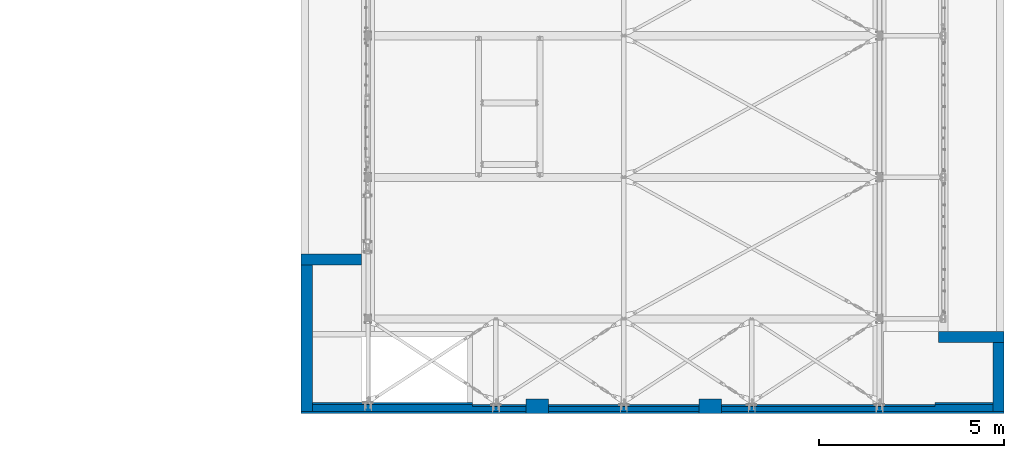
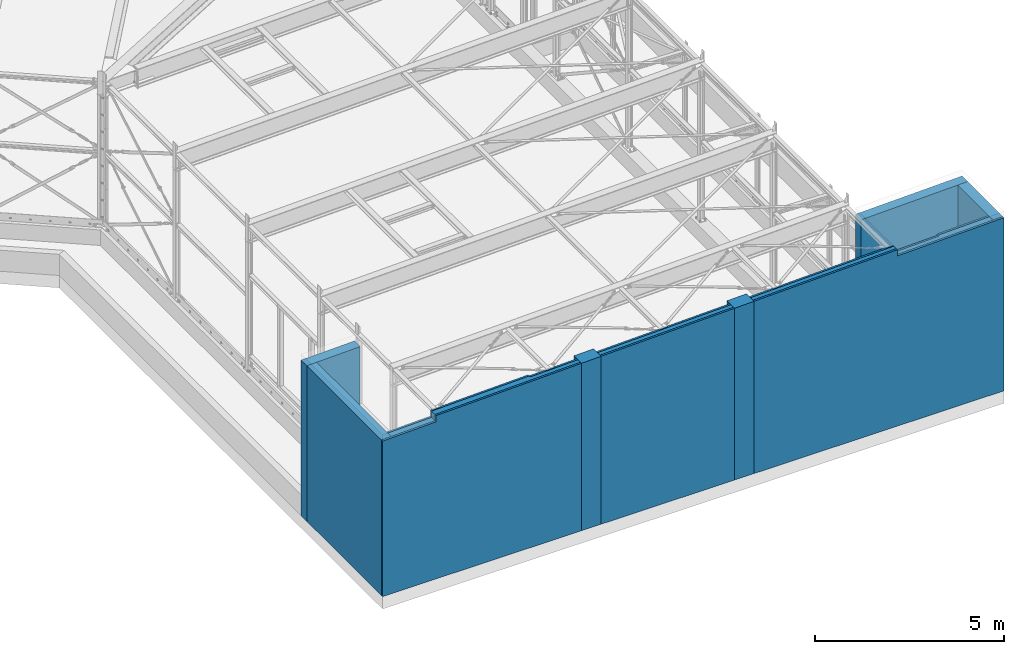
# One storey, part 77 of 476: 17 walls, 31 openings.
"""IFC2X3 building model written with IfcOpenShell, lengths in millimetres."""

from ifc_helpers import new_model, entity, si_unit, converted_unit, frame, origin, origin_with_axes, place, context, project, spatial, polyline, outline, extrude, material, layer, layer_set, element, save


model = new_model("IFC2X3")

# Units and contexts
model_context = context("Model", 3, precision=1e-09, world=origin_with_axes())
ifc_project = project(units=[si_unit("LENGTHUNIT", "METRE", prefix="MILLI"), si_unit("AREAUNIT", "SQUARE_METRE"), si_unit("VOLUMEUNIT", "CUBIC_METRE"), converted_unit("PLANEANGLEUNIT", "DEGREE", entity("IfcPlaneAngleMeasure", 0.01745329), si_unit("PLANEANGLEUNIT", "RADIAN"), dimensions=[0, 0, 0, 0, 0, 0, 0])], contexts=[model_context])

# Site, building, storey
site_placement = place(None, origin_with_axes())
site = spatial("IfcSite", under=ifc_project, at=site_placement, Name="mKR Teilneubau & Sanierung BA1 - Ostfildern", CompositionType="ELEMENT")
building_placement = place(site_placement, origin_with_axes())
building = spatial("IfcBuilding", under=site, at=building_placement, Name="Struktur 1", CompositionType="ELEMENT")
storey_placement = place(building_placement, origin_with_axes())
storey = spatial("IfcBuildingStorey", under=building, at=storey_placement, Name="Default Storey", CompositionType="ELEMENT", Elevation=0.0)

# Wall, openings
ifc_material = material(Name="C25/30")
ifc_layer_1 = layer(ifc_material, 60.0)
ifc_layer_set_1 = layer_set([ifc_layer_1], Name="C25/30")
wall_1_placement = place(None, frame((8820.608764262, -23480.316467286, 3000.0), z_axis=(0.0, -1.0, 0.0), x_axis=(1.0, 0.0, 0.0)))
wall_1 = element("IfcWall", 1, at=wall_1_placement, inside=storey, material=ifc_layer_set_1, Name="-", ObjectType="-", context=model_context, shape_type="SweptSolid", body=[
    extrude(outline(polyline([(-2160.000000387, -3000.0), (2160.000000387, -3000.0), (2160.000000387, 3000.0), (-2160.000000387, 3000.0), (-2160.000000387, -3000.0)])), origin_with_axes(), (0.0, 0.0, 1.0), 60.0),
])
opening_1_placement = place(wall_1_placement, frame((0.0, 0.0, -0.1), z_axis=(0.0, 0.0, 1.0), x_axis=(0.999548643, 0.0300418, 0.0)))
element("IfcOpeningElement", 2, at=opening_1_placement, cuts=wall_1, ObjectType="Opening", context=model_context, shape_type="SweptSolid", body=[
    extrude(outline(polyline([(-3044.791733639, 2092.899814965), (-767.469956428, 2092.898814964), (-711.393342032, 3958.709274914), (-2912.029489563, 3958.709274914), (-3044.791733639, 2092.899814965)])), origin(), (0.0, 0.0, 1.0), 60.2),
])
opening_2_placement = place(wall_1_placement, frame((0.0, 0.0, -0.1), z_axis=(0.0, 0.0, 1.0), x_axis=(0.999548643, 0.0300418, 0.0)))
element("IfcOpeningElement", 3, at=opening_2_placement, cuts=wall_1, ObjectType="Opening", context=model_context, shape_type="SweptSolid", body=[
    extrude(outline(polyline([(-1398.165405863, 2292.899814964), (3878.19009054, 2292.899814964), (3878.19009054, 5635.769206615), (-1398.165405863, 5635.769206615), (-1398.165405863, 2292.899814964)])), origin(), (0.0, 0.0, 1.0), 60.2),
])
opening_3_placement = place(wall_1_placement, frame((0.0, 0.0, -0.1), z_axis=(0.0, 0.0, 1.0), x_axis=(0.999548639, 0.030041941, 0.0)))
element("IfcOpeningElement", 4, at=opening_3_placement, cuts=wall_1, ObjectType="Opening", context=model_context, shape_type="SweptSolid", body=[
    extrude(outline(polyline([(-713.846760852, 2042.908199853), (-463.844760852, 2042.908199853), (-463.844760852, 2292.910199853), (-713.846760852, 2292.910199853), (-713.846760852, 2042.908199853)])), origin(), (0.0, 0.0, 1.0), 20.1),
])

wall_2_placement = place(None, frame((11705.608733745, -23530.31740625, 3000.0), z_axis=(0.0, -1.0, 0.0), x_axis=(1.0, 0.0, 0.0)))
wall_2 = element("IfcWall", 5, at=wall_2_placement, inside=storey, material=ifc_layer_set_1, Name="-", ObjectType="-", context=model_context, shape_type="SweptSolid", body=[
    extrude(outline(polyline([(-724.999969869, -3000.0), (724.999969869, -3000.0), (724.999969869, 3000.0), (-724.999969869, 3000.0), (-724.999969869, -3000.0)])), origin_with_axes(), (0.0, 0.0, 1.0), 60.0),
])
opening_4_placement = place(wall_2_placement, frame((0.0, 0.0, -0.1), z_axis=(0.0, 0.0, 1.0), x_axis=(0.999548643, 0.0300418, 0.0)))
element("IfcOpeningElement", 6, at=opening_4_placement, cuts=wall_2, ObjectType="Opening", context=model_context, shape_type="SweptSolid", body=[
    extrude(outline(polyline([(-1485.061800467, 2379.569405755), (2681.23173557, 2379.569405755), (2681.23173557, 5163.332265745), (-1485.061800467, 5163.332265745), (-1485.061800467, 2379.569405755)])), origin(), (0.0, 0.0, 1.0), 60.2),
])
opening_5_placement = place(wall_2_placement, frame((0.0, 0.0, -0.1), z_axis=(0.0, 0.0, 1.0), x_axis=(0.999548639, 0.030041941, 0.0)))
element("IfcOpeningElement", 7, at=opening_5_placement, cuts=wall_2, ObjectType="Opening", context=model_context, shape_type="SweptSolid", body=[
    extrude(outline(polyline([(-145.984627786, 2129.573973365), (104.017372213, 2129.573973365), (104.017372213, 2379.575973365), (-145.984627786, 2379.575973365), (-145.984627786, 2129.573973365)])), origin(), (0.0, 0.0, 1.0), 20.1),
])

wall_3_placement = place(None, frame((15065.608764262, -23530.31740625, 3000.0), z_axis=(0.0, -1.0, 0.0), x_axis=(1.0, 0.0, 0.0)))
wall_3 = element("IfcWall", 8, at=wall_3_placement, inside=storey, material=ifc_layer_set_1, Name="-", ObjectType="-", context=model_context, shape_type="SweptSolid", body=[
    extrude(outline(polyline([(-2035.000000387, -3000.0), (2035.000000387, -3000.0), (2035.000000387, 3000.0), (-2035.000000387, 3000.0), (-2035.000000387, -3000.0)])), origin_with_axes(), (0.0, 0.0, 1.0), 60.0),
])
opening_6_placement = place(wall_3_placement, frame((0.0, 0.0, -0.1), z_axis=(0.0, 0.0, 1.0), x_axis=(0.999548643, 0.0300418, 0.0)))
element("IfcOpeningElement", 9, at=opening_6_placement, cuts=wall_3, ObjectType="Opening", context=model_context, shape_type="SweptSolid", body=[
    extrude(outline(polyline([(-4584.426934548, 2480.509853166), (3229.92146185, 2480.509853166), (3229.92146185, 4980.441591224), (-4584.426934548, 4980.441591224), (-4584.426934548, 2480.509853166)])), origin(), (0.0, 0.0, 1.0), 60.2),
])
opening_7_placement = place(wall_3_placement, frame((0.0, 0.0, -0.1), z_axis=(0.0, 0.0, 1.0), x_axis=(0.999548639, 0.030041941, 0.0)))
element("IfcOpeningElement", 10, at=opening_7_placement, cuts=wall_3, ObjectType="Opening", context=model_context, shape_type="SweptSolid", body=[
    extrude(outline(polyline([(-52.910993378, 2230.5167775), (197.091006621, 2230.5167775), (197.091006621, 2480.5187775), (-52.910993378, 2480.5187775), (-52.910993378, 2230.5167775)])), origin(), (0.0, 0.0, 1.0), 20.1),
])

wall_4_placement = place(None, frame((20580.609233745, -23530.31740625, 3000.0), z_axis=(0.0, -1.0, 0.0), x_axis=(1.0, 0.0, 0.0)))
wall_4 = element("IfcWall", 11, at=wall_4_placement, inside=storey, material=ifc_layer_set_1, Name="-", ObjectType="-", context=model_context, shape_type="SweptSolid", body=[
    extrude(outline(polyline([(-2880.000530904, -3000.0), (2880.000530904, -3000.0), (2880.000530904, 3000.0), (-2880.000530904, 3000.0), (-2880.000530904, -3000.0)])), origin_with_axes(), (0.0, 0.0, 1.0), 60.0),
])
opening_8_placement = place(wall_4_placement, frame((0.0, 0.0, -0.1), z_axis=(0.0, 0.0, 1.0), x_axis=(0.999548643, 0.0300418, 0.0)))
element("IfcOpeningElement", 12, at=opening_8_placement, cuts=wall_4, ObjectType="Opening", context=model_context, shape_type="SweptSolid", body=[
    extrude(outline(polyline([(1612.722225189, 4060.869991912), (1564.192440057, 2446.190391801), (3549.811276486, 2446.190391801), (3549.811276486, 3188.542503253), (1612.722225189, 4060.869991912)])), origin(), (0.0, 0.0, 1.0), 60.2),
])
opening_9_placement = place(wall_4_placement, frame((0.0, 0.0, -0.1), z_axis=(0.0, 0.0, 1.0), x_axis=(0.999548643, 0.0300418, 0.0)))
element("IfcOpeningElement", 13, at=opening_9_placement, cuts=wall_4, ObjectType="Opening", context=model_context, shape_type="SweptSolid", body=[
    extrude(outline(polyline([(-3176.949745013, 2646.191391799), (1865.513369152, 2646.191391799), (1865.513369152, 4432.340597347), (-3176.949745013, 4432.340597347), (-3176.949745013, 2646.191391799)])), origin(), (0.0, 0.0, 1.0), 60.2),
])
opening_10_placement = place(wall_4_placement, frame((0.0, 0.0, -0.1), z_axis=(0.0, 0.0, 1.0), x_axis=(0.999548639, 0.030041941, 0.0)))
element("IfcOpeningElement", 14, at=opening_10_placement, cuts=wall_4, ObjectType="Opening", context=model_context, shape_type="SweptSolid", body=[
    extrude(outline(polyline([(-2113.865529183, 2396.200446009), (-1863.863529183, 2396.200446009), (-1863.863529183, 2646.202446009), (-2113.865529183, 2646.202446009), (-2113.865529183, 2396.200446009)])), origin(), (0.0, 0.0, 1.0), 20.1),
])
opening_11_placement = place(wall_4_placement, frame((0.0, 0.0, -0.1), z_axis=(0.0, 0.0, 1.0), x_axis=(0.999548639, 0.030041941, 0.0)))
element("IfcOpeningElement", 15, at=opening_11_placement, cuts=wall_4, ObjectType="Opening", context=model_context, shape_type="SweptSolid", body=[
    extrude(outline(polyline([(1337.692369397, 2396.200446), (1587.694369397, 2396.200446), (1587.694369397, 2646.202446), (1337.692369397, 2646.202446), (1337.692369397, 2396.200446)])), origin(), (0.0, 0.0, 1.0), 20.1),
])

# Wall, opening
wall_5_placement = place(None, frame((24243.108733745, -23480.316467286, 3000.0), z_axis=(0.0, -1.0, 0.0), x_axis=(1.0, 0.0, 0.0)))
wall_5 = element("IfcWall", 16, at=wall_5_placement, inside=storey, material=ifc_layer_set_1, Name="-", ObjectType="-", context=model_context, shape_type="SweptSolid", body=[
    extrude(outline(polyline([(-782.499969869, -3000.0), (782.499969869, -3000.0), (782.499969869, 3000.0), (-782.499969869, 3000.0), (-782.499969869, -3000.0)])), origin_with_axes(), (0.0, 0.0, 1.0), 60.0),
])
opening_12_placement = place(wall_5_placement, frame((0.0, 0.0, -0.1), z_axis=(0.0, 0.0, 1.0), x_axis=(0.999548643, 0.0300418, 0.0)))
element("IfcOpeningElement", 17, at=opening_12_placement, cuts=wall_5, ObjectType="Opening", context=model_context, shape_type="SweptSolid", body=[
    extrude(outline(polyline([(1446.219253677, 3445.687625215), (-1355.118996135, 3445.687625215), (-1355.118996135, 2556.219467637), (2451.439072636, 2556.219467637), (1446.219253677, 3445.687625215)])), origin(), (0.0, 0.0, 1.0), 60.2),
])

# Wall, openings
wall_6_placement = place(None, frame((21513.108703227, -23780.316467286, 3000.0), z_axis=(0.0, -1.0, 0.0), x_axis=(1.0, 0.0, 0.0)))
wall_6 = element("IfcWall", 18, at=wall_6_placement, inside=storey, material=ifc_layer_set_1, Name="-", ObjectType="-", context=model_context, shape_type="SweptSolid", body=[
    extrude(outline(polyline([(-3812.500000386, -3000.0), (3812.500000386, -3000.0), (3812.500000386, 3000.0), (-3812.500000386, 3000.0), (-3812.500000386, -3000.0)])), origin_with_axes(), (0.0, 0.0, -1.0), 60.0),
])
opening_13_placement = place(wall_6_placement, frame((557.499000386, 3823.165551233, 0.1), z_axis=(0.0, 0.0, 1.0), x_axis=(0.0, -1.0, 0.0)))
element("IfcOpeningElement", 19, at=opening_13_placement, cuts=wall_6, ObjectType="Opening", context=model_context, shape_type="SweptSolid", body=[
    extrude(outline(polyline([(0.0, 0.0), (1331.087107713, 0.0), (1203.798368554, 4235.141983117), (229.60430572, 4205.862224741), (0.0, 0.0)])), origin(), (0.0, 0.0, -1.0), 60.2),
])
opening_14_placement = place(wall_6_placement, frame((-4187.511628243, 2549.555728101, 0.1), z_axis=(0.0, 0.0, 1.0), x_axis=(0.999548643, 0.0300418, 0.0)))
element("IfcOpeningElement", 20, at=opening_14_placement, cuts=wall_6, ObjectType="Opening", context=model_context, shape_type="SweptSolid", body=[
    extrude(outline(polyline([(0.0, 0.0), (5042.463114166, 0.0), (5042.463114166, 1786.149205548), (0.0, 1786.149205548), (0.0, 0.0)])), origin(), (0.0, 0.0, -1.0), 60.2),
])

wall_7_placement = place(None, frame((9395.608734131, -23780.316467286, 3000.0), z_axis=(0.0, -1.0, 0.0), x_axis=(1.0, 0.0, 0.0)))
wall_7 = element("IfcWall", 21, at=wall_7_placement, inside=storey, material=ifc_layer_set_1, Name="-", ObjectType="-", context=model_context, shape_type="SweptSolid", body=[
    extrude(outline(polyline([(-3034.999969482, -3000.0), (3034.999969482, -3000.0), (3034.999969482, 3000.0), (-3034.999969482, 3000.0), (-3034.999969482, -3000.0)])), origin_with_axes(), (0.0, 0.0, -1.0), 60.0),
])
opening_15_placement = place(wall_7_placement, frame((-3681.29185711, 2000.484148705, 0.1), z_axis=(0.0, 0.0, 1.0), x_axis=(0.999548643, 0.0300418, 0.0)))
element("IfcOpeningElement", 22, at=opening_15_placement, cuts=wall_7, ObjectType="Opening", context=model_context, shape_type="SweptSolid", body=[
    extrude(outline(polyline([(0.0, 0.0), (2277.320770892, 0.0), (2330.431175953, 1767.085664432), (65.514477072, 1767.085664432), (0.0, 0.0)])), origin(), (0.0, 0.0, -1.0), 60.2),
])
opening_16_placement = place(wall_7_placement, frame((-2372.510706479, 2239.908355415, 0.1), z_axis=(0.0, 0.0, 1.0), x_axis=(0.999548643, 0.0300418, 0.0)))
element("IfcOpeningElement", 23, at=opening_16_placement, cuts=wall_7, ObjectType="Opening", context=model_context, shape_type="SweptSolid", body=[
    extrude(outline(polyline([(0.0, 0.0), (7068.924280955, 0.0), (7068.924280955, 2483.347916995), (0.0, 2483.347916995), (0.0, 0.0)])), origin(), (0.0, 0.0, -1.0), 60.2),
])

# Wall, opening
wall_8_placement = place(None, frame((15065.608764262, -23780.316467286, 3000.0), z_axis=(0.0, -1.0, 0.0), x_axis=(1.0, 0.0, 0.0)))
wall_8 = element("IfcWall", 24, at=wall_8_placement, inside=storey, material=ifc_layer_set_1, Name="-", ObjectType="-", context=model_context, shape_type="SweptSolid", body=[
    extrude(outline(polyline([(-2035.000000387, -3000.0), (2035.000000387, -3000.0), (2035.000000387, 3000.0), (-2035.000000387, 3000.0), (-2035.000000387, -3000.0)])), origin_with_axes(), (0.0, 0.0, -1.0), 60.0),
])
opening_17_placement = place(wall_8_placement, frame((-4973.982834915, 2332.13508271, 0.1), z_axis=(0.0, 0.0, 1.0), x_axis=(0.999548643, 0.0300418, 0.0)))
element("IfcOpeningElement", 25, at=opening_17_placement, cuts=wall_8, ObjectType="Opening", context=model_context, shape_type="SweptSolid", body=[
    extrude(outline(polyline([(0.0, 0.0), (7790.989475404, 0.0), (7790.989475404, 1723.857112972), (0.0, 1723.857112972), (0.0, 0.0)])), origin(), (0.0, 0.0, -1.0), 60.2),
])

ifc_layer_2 = layer(ifc_material, 300.0)
ifc_layer_set_2 = layer_set([ifc_layer_2], Name="C25/30")
wall_9_placement = place(None, frame((7175.608767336, -19475.316469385, 3000.0), z_axis=(0.0, -1.0, 0.0), x_axis=(1.0, 0.0, 0.0)))
wall_9 = element("IfcWall", 26, at=wall_9_placement, inside=storey, material=ifc_layer_set_2, Name="-", ObjectType="-", context=model_context, shape_type="SweptSolid", body=[
    extrude(outline(polyline([(-815.000002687, -3000.0), (815.000002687, -3000.0), (815.000002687, 3000.0), (-815.000002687, 3000.0), (-815.000002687, -3000.0)])), origin_with_axes(), (0.0, 0.0, 1.0), 300.0),
])
opening_18_placement = place(wall_9_placement, frame((-3.87e-07, 0.0, -0.100002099), z_axis=(0.0, 0.0, 1.0), x_axis=(0.999548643, 0.0300418, 0.0)))
element("IfcOpeningElement", 27, at=opening_18_placement, cuts=wall_9, ObjectType="Opening", context=model_context, shape_type="SweptSolid", body=[
    extrude(outline(polyline([(-1394.971979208, 2043.481054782), (2134.962924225, 2043.481054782), (2134.962924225, 4147.259740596), (-1394.971979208, 4147.259740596), (-1394.971979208, 2043.481054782)])), origin(), (0.0, 0.0, 1.0), 300.200004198),
])

wall_10_placement = place(None, frame((6660.608763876, -21747.816467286, 3000.0), z_axis=(-1.0, 0.0, 0.0), x_axis=(0.0, -1.0, 0.0)))
wall_10 = element("IfcWall", 28, at=wall_10_placement, inside=storey, material=ifc_layer_set_2, Name="-", ObjectType="-", context=model_context, shape_type="SweptSolid", body=[
    extrude(outline(polyline([(-1972.5, -3000.0), (1972.5, -3000.0), (1972.5, 3000.0), (-1972.5, 3000.0), (-1972.5, -3000.0)])), origin_with_axes(), (0.0, 0.0, 1.0), 300.0),
])
opening_19_placement = place(wall_10_placement, frame((-1972.6, 0.0, 150.0), z_axis=(1.0, 0.0, 0.0), x_axis=(0.0, 0.0300418, -0.999548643)))
element("IfcOpeningElement", 29, at=opening_19_placement, cuts=wall_10, ObjectType="Opening", context=model_context, shape_type="SweptSolid", body=[
    extrude(outline(polyline([(-939.085066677, 2023.503257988), (2792.750266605, 2023.503257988), (2792.750266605, 4454.432771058), (-939.085066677, 4454.432771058), (-939.085066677, 2023.503257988)])), origin(), (0.0, 0.0, 1.0), 3945.2),
])

# Wall, openings
ifc_layer_3 = layer(ifc_material, 180.0)
ifc_layer_set_3 = layer_set([ifc_layer_3], Name="C25/30")
wall_11_placement = place(None, frame((9545.608733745, -23540.316467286, 3000.0), z_axis=(0.0, -1.0, 0.0), x_axis=(1.0, 0.0, 0.0)))
wall_11 = element("IfcWall", 30, at=wall_11_placement, inside=storey, material=ifc_layer_set_3, Name="-", ObjectType="-", context=model_context, shape_type="SweptSolid", body=[
    extrude(outline(polyline([(-2884.999969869, -3000.0), (2884.999969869, -3000.0), (2884.999969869, 3000.0), (-2884.999969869, 3000.0), (-2884.999969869, -3000.0)])), origin_with_axes(), (0.0, 0.0, 1.0), 180.0),
])
opening_20_placement = place(wall_11_placement, frame((0.0, -3000.1, 90.0), z_axis=(0.0, 1.0, 0.0), x_axis=(1.0, 0.0, 0.0)))
element("IfcOpeningElement", 31, at=opening_20_placement, cuts=wall_11, ObjectType="Opening", context=model_context, shape_type="SweptSolid", body=[
    extrude(outline(polyline([(1434.999030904, 39.999061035), (2917.696430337, 39.999061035), (2917.696430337, 203.924111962), (1434.999030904, 203.924111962), (1434.999030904, 39.999061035)])), origin(), (0.0, 0.0, 1.0), 6000.2),
])
opening_21_placement = place(wall_11_placement, frame((0.0, 0.0, -0.1), z_axis=(0.0, 0.0, 1.0), x_axis=(0.999548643, 0.0300418, 0.0)))
element("IfcOpeningElement", 32, at=opening_21_placement, cuts=wall_11, ObjectType="Opening", context=model_context, shape_type="SweptSolid", body=[
    extrude(outline(polyline([(-3830.478943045, 2114.680118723), (-1492.143692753, 2114.679118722), (-1427.322302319, 4271.411865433), (-4168.72220762, 4271.411865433), (-3830.478943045, 2114.680118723)])), origin(), (0.0, 0.0, 1.0), 180.2),
])
opening_22_placement = place(wall_11_placement, frame((0.0, 0.0, -0.1), z_axis=(0.0, 0.0, 1.0), x_axis=(0.999548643, 0.0300418, 0.0)))
element("IfcOpeningElement", 33, at=opening_22_placement, cuts=wall_11, ObjectType="Opening", context=model_context, shape_type="SweptSolid", body=[
    extrude(outline(polyline([(-1972.562369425, 2314.679118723), (5019.752842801, 2314.679118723), (5019.752842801, 5323.753971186), (-1972.562369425, 5323.753971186), (-1972.562369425, 2314.679118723)])), origin(), (0.0, 0.0, 1.0), 180.2),
])

# Wall, opening
ifc_layer_4 = layer(ifc_material, 130.0)
ifc_layer_set_4 = layer_set([ifc_layer_4], Name="C25/30")
wall_12_placement = place(None, frame((15065.608764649, -23590.316467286, 3000.0), z_axis=(0.0, -1.0, 0.0), x_axis=(1.0, 0.0, 0.0)))
wall_12 = element("IfcWall", 34, at=wall_12_placement, inside=storey, material=ifc_layer_set_4, Name="-", ObjectType="-", context=model_context, shape_type="SweptSolid", body=[
    extrude(outline(polyline([(-2035.0, -3000.0), (2035.0, -3000.0), (2035.0, 3000.0), (-2035.0, 3000.0), (-2035.0, -3000.0)])), origin_with_axes(), (0.0, 0.0, 1.0), 130.0),
])
opening_23_placement = place(wall_12_placement, frame((0.0, 0.0, -0.1), z_axis=(0.0, 0.0, 1.0), x_axis=(0.999548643, 0.0300418, 0.0)))
element("IfcOpeningElement", 35, at=opening_23_placement, cuts=wall_12, ObjectType="Opening", context=model_context, shape_type="SweptSolid", body=[
    extrude(outline(polyline([(-4509.289190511, 2480.509853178), (3513.77579254, 2480.509853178), (3513.77579254, 5614.653073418), (-4509.289190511, 5614.653073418), (-4509.289190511, 2480.509853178)])), origin(), (0.0, 0.0, 1.0), 130.2),
])

# Wall, openings
wall_13_placement = place(None, frame((21363.108703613, -23540.316467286, 3000.0), z_axis=(0.0, -1.0, 0.0), x_axis=(1.0, 0.0, 0.0)))
wall_13 = element("IfcWall", 36, at=wall_13_placement, inside=storey, material=ifc_layer_set_3, Name="-", ObjectType="-", context=model_context, shape_type="SweptSolid", body=[
    extrude(outline(polyline([(-3662.5, -3000.0), (3662.5, -3000.0), (3662.5, 3000.0), (-3662.5, 3000.0), (-3662.5, -3000.0)])), origin_with_axes(), (0.0, 0.0, 1.0), 180.0),
])
opening_24_placement = place(wall_13_placement, frame((0.0, -3000.1, 90.0), z_axis=(0.0, 1.0, 0.0), x_axis=(1.0, 0.0, 0.0)))
element("IfcOpeningElement", 37, at=opening_24_placement, cuts=wall_13, ObjectType="Opening", context=model_context, shape_type="SweptSolid", body=[
    extrude(outline(polyline([(-3848.030925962, 39.999061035), (2097.501061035, 39.999061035), (2097.501061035, 150.001061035), (-3848.030925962, 150.001061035), (-3848.030925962, 39.999061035)])), origin(), (0.0, 0.0, 1.0), 6000.2),
])
opening_25_placement = place(wall_13_placement, frame((0.0, 0.0, -0.1), z_axis=(0.0, 0.0, 1.0), x_axis=(0.999548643, 0.0300418, 0.0)))
element("IfcOpeningElement", 38, at=opening_25_placement, cuts=wall_13, ObjectType="Opening", context=model_context, shape_type="SweptSolid", body=[
    extrude(outline(polyline([(825.231250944, 3906.549508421), (782.045156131, 2469.698084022), (4659.297164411, 2469.698084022), (4659.297164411, 3319.138975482), (825.231250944, 3906.549508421)])), origin(), (0.0, 0.0, 1.0), 180.2),
])
opening_26_placement = place(wall_13_placement, frame((0.0, 0.0, -0.1), z_axis=(0.0, 0.0, 1.0), x_axis=(0.999548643, 0.0300418, 0.0)))
element("IfcOpeningElement", 39, at=opening_26_placement, cuts=wall_13, ObjectType="Opening", context=model_context, shape_type="SweptSolid", body=[
    extrude(outline(polyline([(-3959.096028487, 2669.699084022), (1083.367085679, 2669.699084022), (1083.367085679, 4455.848289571), (-3959.096028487, 4455.848289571), (-3959.096028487, 2669.699084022)])), origin(), (0.0, 0.0, 1.0), 180.2),
])

# Wall, opening
wall_14_placement = place(None, frame((25025.608703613, -22790.494750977, 3000.0), z_axis=(1.0, 0.0, 0.0), x_axis=(0.0, 1.0, 0.0)))
wall_14 = element("IfcWall", 40, at=wall_14_placement, inside=storey, material=ifc_layer_set_2, Name="-", ObjectType="-", context=model_context, shape_type="SweptSolid", body=[
    extrude(outline(polyline([(-929.821716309, -3000.0), (929.821716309, -3000.0), (929.821716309, 3000.0), (-929.821716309, 3000.0), (-929.821716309, -3000.0)])), origin_with_axes(), (0.0, 0.0, 1.0), 300.0),
])
opening_27_placement = place(wall_14_placement, frame((929.921716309, 0.0, 150.0), z_axis=(-1.0, 0.0, 0.0), x_axis=(0.0, 0.0300418, 0.999548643)))
element("IfcOpeningElement", 41, at=opening_27_placement, cuts=wall_14, ObjectType="Opening", context=model_context, shape_type="SweptSolid", body=[
    extrude(outline(polyline([(-2094.021603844, 2584.233444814), (1620.364849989, 2584.233444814), (1620.364849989, 4121.087277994), (-2094.021603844, 4121.087277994), (-2094.021603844, 2584.233444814)])), origin(), (0.0, 0.0, 1.0), 1859.843432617),
])

# Wall, openings
wall_15_placement = place(None, frame((23698.109203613, -21860.673034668, 3000.0), z_axis=(0.0, 1.0, 0.0), x_axis=(-1.0, 0.0, 0.0)))
wall_15 = element("IfcWall", 42, at=wall_15_placement, inside=storey, material=ifc_layer_set_2, Name="-", ObjectType="-", context=model_context, shape_type="SweptSolid", body=[
    extrude(outline(polyline([(-1627.4995, -3000.0), (1627.4995, -3000.0), (1627.4995, 3000.0), (-1627.4995, 3000.0), (-1627.4995, -3000.0)])), origin_with_axes(), (0.0, 0.0, 1.0), 300.0),
])
opening_28_placement = place(wall_15_placement, frame((0.0, 0.0, 300.1), z_axis=(0.0, 0.0, -1.0), x_axis=(-0.999548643, 0.0300418, 0.0)))
element("IfcOpeningElement", 43, at=opening_28_placement, cuts=wall_15, ObjectType="Opening", context=model_context, shape_type="SweptSolid", body=[
    extrude(outline(polyline([(-3527.898527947, 2539.846700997), (2817.261575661, 2539.846700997), (2817.261575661, 4153.735457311), (-3527.898527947, 4153.735457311), (-3527.898527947, 2539.846700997)])), origin(), (0.0, 0.0, 1.0), 300.2),
])
opening_29_placement = place(wall_15_placement, frame((0.0, 0.0, -0.1), z_axis=(0.0, 0.0, 1.0), x_axis=(1.0, 0.0, 0.0)))
element("IfcOpeningElement", 44, at=opening_29_placement, cuts=wall_15, ObjectType="Opening", context=model_context, shape_type="SweptSolid", body=[
    extrude(outline(polyline([(137.499438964, -3304.668317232), (1810.691821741, -3304.668317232), (1810.691821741, -244.999), (137.499438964, -244.999), (137.499438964, -3304.668317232)])), origin(), (0.0, 0.0, 1.0), 300.2),
])

# Wall, opening
ifc_layer_5 = layer(ifc_material, 400.0)
ifc_layer_set_5 = layer_set([ifc_layer_5], Name="C25/30")
wall_16_placement = place(None, frame((12730.608734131, -23380.316467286, 3000.0), z_axis=(0.0, -1.0, 0.0), x_axis=(1.0, 0.0, 0.0)))
wall_16 = element("IfcWall", 45, at=wall_16_placement, inside=storey, material=ifc_layer_set_5, Name="-", ObjectType="-", context=model_context, shape_type="SweptSolid", body=[
    extrude(outline(polyline([(-300.000030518, -3000.0), (300.000030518, -3000.0), (300.000030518, 3000.0), (-300.000030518, 3000.0), (-300.000030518, -3000.0)])), origin_with_axes(), (0.0, 0.0, 1.0), 400.0),
])
opening_30_placement = place(wall_16_placement, frame((0.0, 0.0, -0.1), z_axis=(0.0, 0.0, 1.0), x_axis=(0.999548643, 0.0300418, 0.0)))
element("IfcOpeningElement", 46, at=opening_30_placement, cuts=wall_16, ObjectType="Opening", context=model_context, shape_type="SweptSolid", body=[
    extrude(outline(polyline([(-1891.488463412, 2410.363250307), (1055.59071965, 2410.363250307), (1055.59071965, 4643.257500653), (-1891.488463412, 4643.257500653), (-1891.488463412, 2410.363250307)])), origin(), (0.0, 0.0, 1.0), 400.2),
])

wall_17_placement = place(None, frame((17400.608734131, -23380.316467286, 3000.0), z_axis=(0.0, -1.0, 0.0), x_axis=(1.0, 0.0, 0.0)))
wall_17 = element("IfcWall", 47, at=wall_17_placement, inside=storey, material=ifc_layer_set_5, Name="-", ObjectType="-", context=model_context, shape_type="SweptSolid", body=[
    extrude(outline(polyline([(-299.999969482, -3000.0), (299.999969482, -3000.0), (299.999969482, 3000.0), (-299.999969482, 3000.0), (-299.999969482, -3000.0)])), origin_with_axes(), (0.0, 0.0, 1.0), 400.0),
])
opening_31_placement = place(wall_17_placement, frame((0.0, 0.0, -0.1), z_axis=(0.0, 0.0, 1.0), x_axis=(0.999548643, 0.0300418, 0.0)))
element("IfcOpeningElement", 48, at=opening_31_placement, cuts=wall_17, ObjectType="Opening", context=model_context, shape_type="SweptSolid", body=[
    extrude(outline(polyline([(-1022.531721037, 2550.657454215), (1406.930440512, 2550.657454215), (1406.930440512, 3765.236321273), (-1022.531721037, 3765.236321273), (-1022.531721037, 2550.657454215)])), origin(), (0.0, 0.0, 1.0), 400.2),
])

save(model, "model.ifc")
